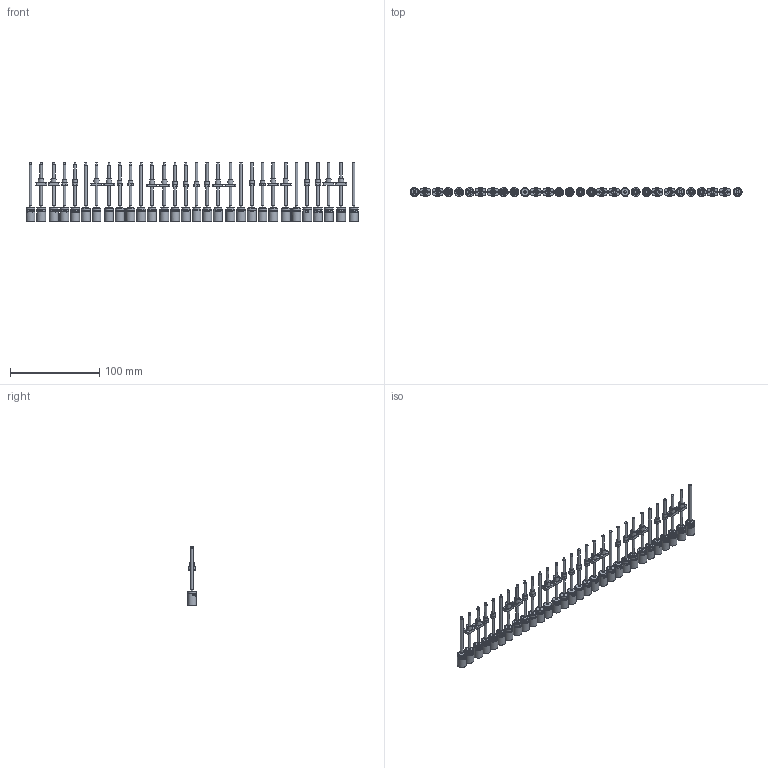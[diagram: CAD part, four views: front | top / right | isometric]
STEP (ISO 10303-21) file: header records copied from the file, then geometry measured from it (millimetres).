
FILE_DESCRIPTION(/* description */ (''),/* implementation_level */ '2;1');
FILE_NAME(/* name */ '10L-2stage_SL_standard_KWNx_KWS1_KFx.stp',/* time_stamp */ '2024-02-27T15:16:05+01:00',/* author */ ('DR. FRITZ FAULHABER GmbH & Co. KG'),/* organization */ ('DR. FRITZ FAULHABER GmbH & Co. KG'),/* preprocessor_version */ 'ST-DEVELOPER v19.3',/* originating_system */ 'SIEMENS PLM Software NX2212.4000',/* authorisation */ '');
FILE_SCHEMA (('AUTOMOTIVE_DESIGN { 1 0 10303 214 3 1 1 1 }'));
Length unit declared in the file: millimetre
Products named in the file (1): C_objects
Bounding box: 372 x 10 x 66.1 mm (x, y, z)
Volume: 48834.8 mm3; surface area: 40814.9 mm2
Topology: 30 solids, 30 shells, 3824 faces, 9409 edges, 6279 vertices
Faces by surface type: plane 2148, bspline 885, cylinder 741, cone 50
Full cylindrical faces by diameter (mm): 0.95 x40, 1.8 x24, 2 x15, 2.2 x30, 3 x54, 3.12 x30, 3.52 x30, 4.959 x30, 5 x12, 6 x42, 7 x20, 8.5 x10, 9.2 x10, 9.8 x30, 10 x70
Entity records: 177968 total; most frequent: CARTESIAN_POINT 80734, ORIENTED_EDGE 17548, DIRECTION 11833, EDGE_CURVE 8774, VERTEX_POINT 6146, EDGE_LOOP 5008, AXIS2_PLACEMENT_3D 4888, B_SPLINE_CURVE_WITH_KNOTS 4770
